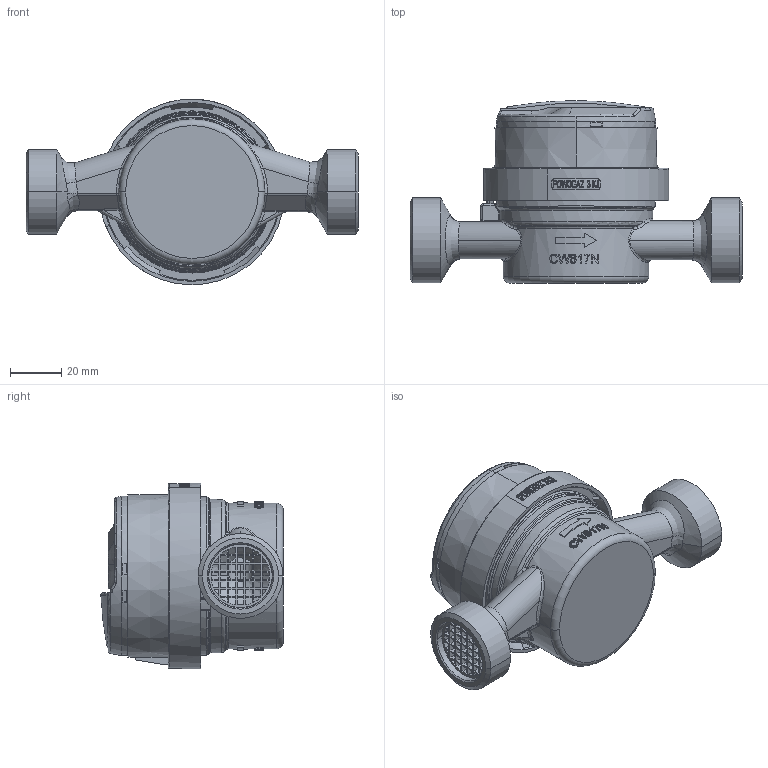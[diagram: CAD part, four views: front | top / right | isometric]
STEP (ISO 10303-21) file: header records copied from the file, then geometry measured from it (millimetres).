
FILE_DESCRIPTION (( 'STEP AP214' ), '1' );
FILE_NAME ('JS-2,5-G1-02.STEP', '2025-05-23T09:56:38', ( '' ), ( '' ), 'SwSTEP 2.0', 'SolidWorks 2019', '' );
FILE_SCHEMA (( 'AUTOMOTIVE_DESIGN' ));
Length unit declared in the file: millimetre
Products named in the file (1): JS-2,5-G1-02
Bounding box: 130 x 71.36 x 72.69 mm (x, y, z)
Volume: 212065.4 mm3; surface area: 74971.5 mm2
Topology: 5 solids, 5 shells, 1017 faces, 2867 edges, 1887 vertices
Faces by surface type: plane 514, bspline 184, cylinder 175, cone 87, torus 43, sphere 14
Entity records: 44252 total; most frequent: CARTESIAN_POINT 19339, ORIENTED_EDGE 5698, DIRECTION 4452, EDGE_CURVE 2849, VERTEX_POINT 1887, AXIS2_PLACEMENT_3D 1535, VECTOR 1382, LINE 1382
